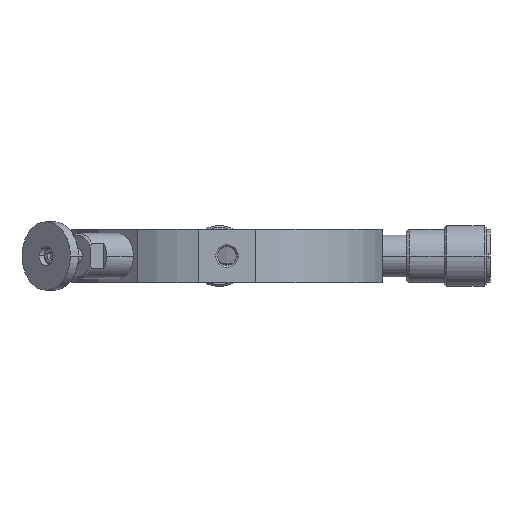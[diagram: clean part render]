
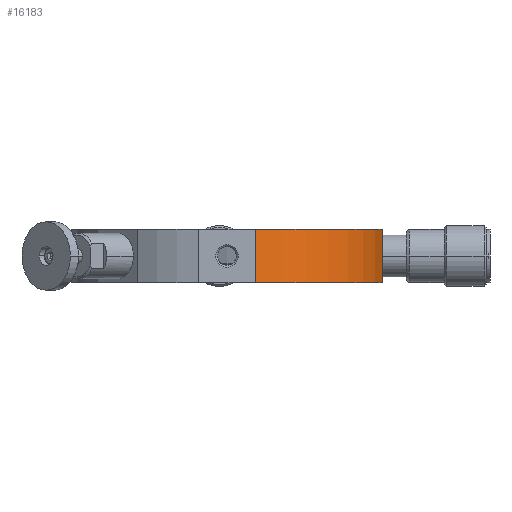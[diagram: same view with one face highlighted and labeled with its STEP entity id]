
A CAD part, front view. The second image highlights one B-rep face of the part: STEP entity #16183.
In plain terms, the highlighted cylindrical face has radius 41.5 mm (diameter 83 mm), a partial arc.
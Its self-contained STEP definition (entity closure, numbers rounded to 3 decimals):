
#3779 = CARTESIAN_POINT ( 'NONE',  ( 40.817, -7.5, 0. ) ) ;
#3818 = DIRECTION ( 'NONE',  ( 1., 0., 0. ) ) ;
#3820 = DIRECTION ( 'NONE',  ( 0., 0., 1. ) ) ;
#3822 = CARTESIAN_POINT ( 'NONE',  ( 0., 0., 0. ) ) ;
#3824 = AXIS2_PLACEMENT_3D ( 'NONE', #3822, #3820, #3818 ) ;
#3826 = CIRCLE ( 'NONE', #3824, 41.5 ) ;
#3890 = CARTESIAN_POINT ( 'NONE',  ( 7.5, -40.817, 0. ) ) ;
#6636 = DIRECTION ( 'NONE',  ( 0., 0., 1. ) ) ;
#6637 = VECTOR ( 'NONE', #6636, 1000. ) ;
#6638 = CARTESIAN_POINT ( 'NONE',  ( 40.817, -7.5, 0. ) ) ;
#6639 = LINE ( 'NONE', #6638, #6637 ) ;
#6644 = CARTESIAN_POINT ( 'NONE',  ( 40.817, -7.5, 14. ) ) ;
#6722 = DIRECTION ( 'NONE',  ( 1., 0., 0. ) ) ;
#6724 = DIRECTION ( 'NONE',  ( 0., 0., 1. ) ) ;
#6726 = CARTESIAN_POINT ( 'NONE',  ( 0., 0., 0. ) ) ;
#6727 = AXIS2_PLACEMENT_3D ( 'NONE', #6726, #6724, #6722 ) ;
#6728 = CYLINDRICAL_SURFACE ( 'NONE', #6727, 41.5 ) ;
#6729 = CARTESIAN_POINT ( 'NONE',  ( 0., 0., 14. ) ) ;
#6731 = FACE_OUTER_BOUND ( 'NONE', #16184, .T. ) ;
#6732 = DIRECTION ( 'NONE',  ( 0., 0., 1. ) ) ;
#6734 = VECTOR ( 'NONE', #6732, 1000. ) ;
#6735 = CARTESIAN_POINT ( 'NONE',  ( 40.817, -7.5, 0. ) ) ;
#6747 = LINE ( 'NONE', #6735, #6734 ) ;
#6823 = DIRECTION ( 'NONE',  ( 0., 0., -1. ) ) ;
#6824 = VECTOR ( 'NONE', #6823, 1000. ) ;
#6826 = CARTESIAN_POINT ( 'NONE',  ( 7.5, -40.817, 14. ) ) ;
#6827 = LINE ( 'NONE', #6826, #6824 ) ;
#6836 = CARTESIAN_POINT ( 'NONE',  ( 7.5, -40.817, 14. ) ) ;
#6838 = DIRECTION ( 'NONE',  ( 1., 0., 0. ) ) ;
#6840 = DIRECTION ( 'NONE',  ( 0., 0., -1. ) ) ;
#6842 = AXIS2_PLACEMENT_3D ( 'NONE', #6729, #6840, #6838 ) ;
#6844 = CIRCLE ( 'NONE', #6842, 41.5 ) ;
#12625 = VERTEX_POINT ( 'NONE', #24825 ) ;
#15329 = VERTEX_POINT ( 'NONE', #3779 ) ;
#15331 = EDGE_CURVE ( 'NONE', #15332, #15329, #3826, .T. ) ;
#15332 = VERTEX_POINT ( 'NONE', #3890 ) ;
#16120 = VERTEX_POINT ( 'NONE', #6644 ) ;
#16122 = EDGE_CURVE ( 'NONE', #12625, #16120, #6639, .T. ) ;
#16166 = ORIENTED_EDGE ( 'NONE', *, *, #16181, .T. ) ;
#16181 = EDGE_CURVE ( 'NONE', #15329, #12625, #6747, .T. ) ;
#16183 = ADVANCED_FACE ( 'NONE', ( #6731 ), #6728, .T. ) ;
#16184 = EDGE_LOOP ( 'NONE', ( #16185, #16186, #16189, #16191, #16166 ) ) ;
#16185 = ORIENTED_EDGE ( 'NONE', *, *, #16122, .T. ) ;
#16186 = ORIENTED_EDGE ( 'NONE', *, *, #16187, .T. ) ;
#16187 = EDGE_CURVE ( 'NONE', #16120, #16188, #6844, .T. ) ;
#16188 = VERTEX_POINT ( 'NONE', #6836 ) ;
#16189 = ORIENTED_EDGE ( 'NONE', *, *, #16190, .T. ) ;
#16190 = EDGE_CURVE ( 'NONE', #16188, #15332, #6827, .T. ) ;
#16191 = ORIENTED_EDGE ( 'NONE', *, *, #15331, .T. ) ;
#24825 = CARTESIAN_POINT ( 'NONE',  ( 40.817, -7.5, 7. ) ) ;
